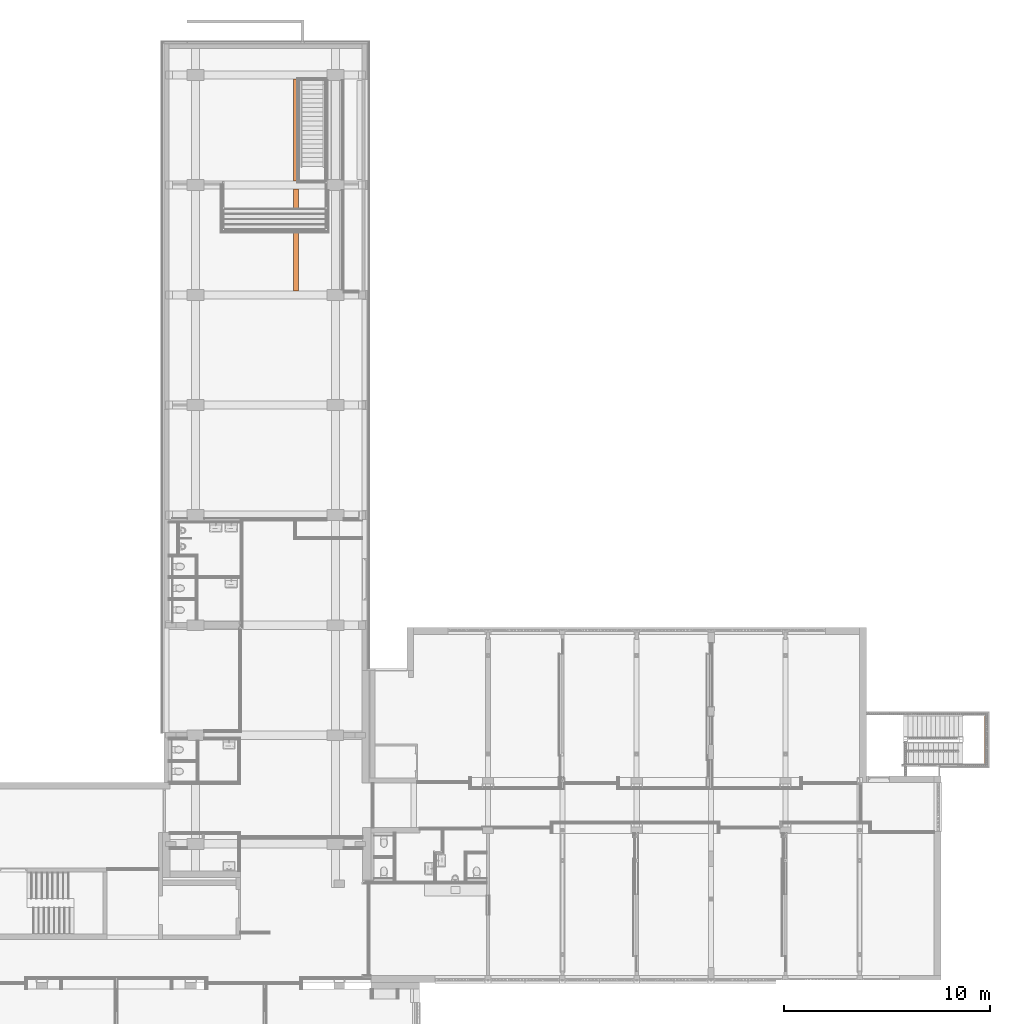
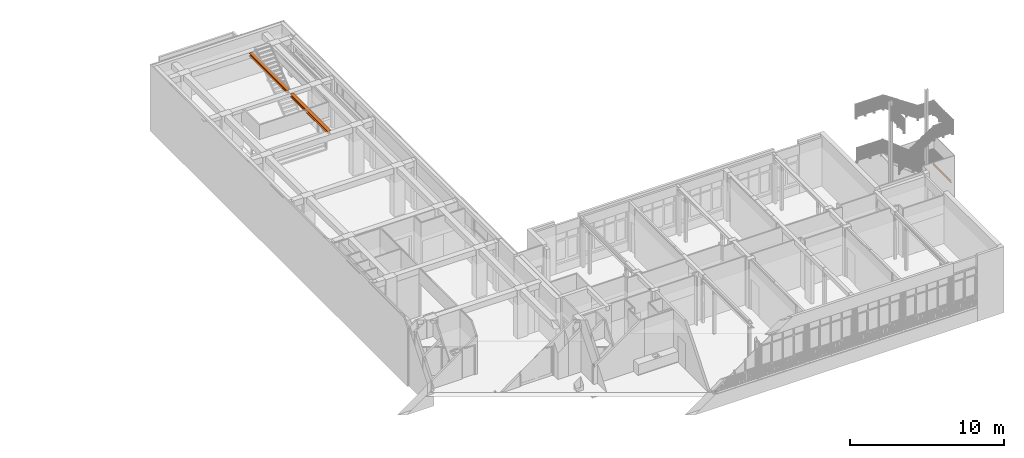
# One storey, part 135 of 135: 3 proxies.
"""IFC2X3 building model written with IfcOpenShell, lengths in millimetres."""

from ifc_helpers import new_model, entity, si_unit, converted_unit, derived_unit, money_unit, direction, frame, origin_with_axes, place, context, subcontext, project, spatial, faceted_brep, material, type_object, element, save


model = new_model("IFC2X3")

# Units and contexts
model_context = context("Model", 3, precision=0.01, world=origin_with_axes(), true_north=direction((0.0, 1.0)))
body_context = subcontext(model_context, "Body", "Model", "MODEL_VIEW")
ifc_project = project(units=[si_unit("LENGTHUNIT", "METRE", prefix="MILLI"), si_unit("AREAUNIT", "SQUARE_METRE"), si_unit("VOLUMEUNIT", "CUBIC_METRE"), converted_unit("PLANEANGLEUNIT", "DEGREE", entity("IfcPlaneAngleMeasure", 0.0174532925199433), si_unit("PLANEANGLEUNIT", "RADIAN"), dimensions=[0, 0, 0, 0, 0, 0, 0]), money_unit("EUR"), converted_unit("TIMEUNIT", "Year", entity("IfcTimeMeasure", 31557600.0), si_unit("TIMEUNIT", "SECOND"), dimensions=[0, 0, 1, 0, 0, 0, 0]), si_unit("MASSUNIT", "GRAM", prefix="KILO"), si_unit("THERMODYNAMICTEMPERATUREUNIT", "DEGREE_CELSIUS"), si_unit("LUMINOUSINTENSITYUNIT", "LUMEN"), si_unit("ENERGYUNIT", "JOULE", prefix="MEGA"), derived_unit("THERMALCONDUCTANCEUNIT", [(si_unit("POWERUNIT", "WATT"), 1), (si_unit("LENGTHUNIT", "METRE"), -1), (si_unit("THERMODYNAMICTEMPERATUREUNIT", "KELVIN"), -1)]), derived_unit("SPECIFICHEATCAPACITYUNIT", [(si_unit("ENERGYUNIT", "JOULE"), 1), (si_unit("MASSUNIT", "GRAM", prefix="KILO"), -1), (si_unit("THERMODYNAMICTEMPERATUREUNIT", "KELVIN"), -1)]), derived_unit("MASSDENSITYUNIT", [(si_unit("MASSUNIT", "GRAM", prefix="KILO"), 1), (si_unit("VOLUMEUNIT", "CUBIC_METRE"), -1)])], contexts=[model_context])

# Site, building, storey
site_placement = place(None, origin_with_axes())
site = spatial("IfcSite", under=ifc_project, at=site_placement, Name="Site", CompositionType="ELEMENT")
building_placement = place(site_placement, origin_with_axes())
building = spatial("IfcBuilding", under=site, at=building_placement, Name="Naam gebouw", CompositionType="ELEMENT")
storey_placement = place(building_placement, origin_with_axes())
storey = spatial("IfcBuildingStorey", under=building, at=storey_placement, Name="Begane grond N", CompositionType="ELEMENT", Elevation=0.0)

# Proxies
ifc_material = material(Name="Metaal - Staal AFW")
building_element_proxy_type_1 = type_object("IfcBuildingElementProxyType", Name="HEA balk 27", PredefinedType="NOTDEFINED")
proxy_1_placement = place(storey_placement, frame((26705.99999999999, 44145.91242510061, 3590.0), z_axis=(0.0, 0.0, 1.0), x_axis=(0.0, -1.0, 0.0)))
element("IfcBuildingElementProxy", 1, at=proxy_1_placement, inside=storey, type_object=building_element_proxy_type_1, material=ifc_material, Name="_Boom-x", context=body_context, shape_type="Brep", body=[
    faceted_brep([(0.0, -120.0, 0.0), (-4929.999999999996, -120.0000000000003, 0.0), (-4929.999999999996, 119.9999999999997, 0.0), (0.0, 120.0, 0.0), (0.0, -120.0, 12.0), (-4929.999999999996, -120.0000000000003, 12.0000000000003), (-4929.999999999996, -24.7500000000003, 12.0000000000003), (-4929.999999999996, -14.2500000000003, 14.81346652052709), (-4929.999999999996, -6.563466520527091, 22.5000000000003), (-4929.999999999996, -3.750000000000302, 33.00000000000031), (-4929.999999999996, -3.750000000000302, 197.0000000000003), (-4929.999999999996, -6.563466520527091, 207.5000000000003), (-4929.999999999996, -14.2500000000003, 215.1865334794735), (-4929.999999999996, -24.7500000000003, 218.0000000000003), (-4929.999999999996, -120.0000000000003, 218.0000000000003), (-4929.999999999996, -120.0000000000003, 230.0000000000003), (-4929.999999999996, 119.9999999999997, 230.0000000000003), (-4929.999999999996, 119.9999999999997, 218.0000000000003), (-4929.999999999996, 24.74999999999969, 218.0000000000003), (-4929.999999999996, 14.2499999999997, 215.1865334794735), (-4929.999999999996, 6.563466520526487, 207.5000000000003), (-4929.999999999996, 3.749999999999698, 197.0000000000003), (-4929.999999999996, 3.749999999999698, 33.00000000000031), (-4929.999999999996, 6.563466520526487, 22.5000000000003), (-4929.999999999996, 14.2499999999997, 14.81346652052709), (-4929.999999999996, 24.7499999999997, 12.0000000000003), (-4929.999999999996, 119.9999999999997, 12.0000000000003), (0.0, 120.0, 12.0), (0.0, 24.75, 12.0), (0.0, 14.25, 14.81346652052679), (0.0, 6.563466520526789, 22.5), (0.0, 3.75, 33.0), (0.0, 3.75, 197.0), (0.0, 6.563466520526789, 207.5), (0.0, 14.25, 215.1865334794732), (0.0, 24.75, 218.0), (0.0, 120.0, 218.0), (0.0, 120.0, 230.0), (0.0, -120.0, 230.0), (0.0, -120.0, 218.0), (0.0, -24.75, 218.0), (0.0, -14.25, 215.1865334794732), (0.0, -6.563466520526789, 207.5), (0.0, -3.75, 197.0), (0.0, -3.75, 33.0), (0.0, -6.563466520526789, 22.5), (0.0, -14.25, 14.81346652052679), (0.0, -24.75, 12.0)], [[[0, 1, 2, 3]], [[4, 5, 1, 0]], [[1, 5, 6, 7, 8, 9, 10, 11, 12, 13, 14, 15, 16, 17, 18, 19, 20, 21, 22, 23, 24, 25, 26, 2]], [[3, 2, 26, 27]], [[0, 3, 27, 28, 29, 30, 31, 32, 33, 34, 35, 36, 37, 38, 39, 40, 41, 42, 43, 44, 45, 46, 47, 4]], [[47, 6, 5, 4]], [[46, 7, 6, 47]], [[45, 8, 7, 46]], [[44, 9, 8, 45]], [[43, 10, 9, 44]], [[42, 11, 10, 43]], [[41, 12, 11, 42]], [[40, 13, 12, 41]], [[39, 14, 13, 40]], [[38, 15, 14, 39]], [[37, 16, 15, 38]], [[36, 17, 16, 37]], [[35, 18, 17, 36]], [[34, 19, 18, 35]], [[33, 20, 19, 34]], [[32, 21, 20, 33]], [[31, 22, 21, 32]], [[30, 23, 22, 31]], [[29, 24, 23, 30]], [[28, 25, 24, 29]], [[27, 26, 25, 28]]]),
])
building_element_proxy_type_2 = type_object("IfcBuildingElementProxyType", Name="UPN balk 27", PredefinedType="NOTDEFINED")
proxy_2_placement = place(storey_placement, frame((60077.49999999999, 23583.4124251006, 1927.745891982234), z_axis=(0.0, 0.0, 1.0), x_axis=(0.0, -1.0, 0.0)))
element("IfcBuildingElementProxy", 2, at=proxy_2_placement, inside=storey, type_object=building_element_proxy_type_2, material=ifc_material, Name="_Boom-x", context=body_context, shape_type="Brep", body=[
    faceted_brep([(2322.500000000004, -32.50000000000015, 160.0000000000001), (2355.000000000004, 0.0, 160.0000000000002), (2387.500000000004, 32.49999999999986, 160.0000000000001), (-32.49999999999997, 32.5, 160.0), (32.49999999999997, -32.5, 160.0), (2355.000000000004, 0.0, 10.50000000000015), (2340.500000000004, -14.50000000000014, 10.50000000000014), (2335.250000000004, -19.75000000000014, 11.90673326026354), (2331.406733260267, -23.59326673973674, 15.75000000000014), (2330.000000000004, -25.00000000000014, 21.00000000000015), (2330.000000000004, -25.00000000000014, 139.0000000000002), (2331.406733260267, -23.59326673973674, 144.2500000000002), (2335.250000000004, -19.75000000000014, 148.0932667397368), (2340.500000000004, -14.50000000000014, 149.5000000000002), (2355.000000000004, 0.0, 149.5000000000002), (2382.000000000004, 26.99999999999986, 149.5000000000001), (2384.750000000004, 29.74999999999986, 150.2368602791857), (2386.763139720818, 31.76313972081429, 152.2500000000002), (2387.500000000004, 32.49999999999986, 155.0000000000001), (2322.500000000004, -32.50000000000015, 0.0), (2355.000000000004, 0.0, 0.0), (2387.500000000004, 32.49999999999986, 0.0), (2387.500000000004, 32.49999999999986, 5.000000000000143), (2386.763139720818, 31.76313972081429, 7.750000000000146), (2384.750000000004, 29.74999999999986, 9.76313972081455), (2382.000000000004, 26.99999999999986, 10.50000000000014), (-32.49999999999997, 32.5, 155.0), (-31.76313972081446, 31.76313972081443, 152.25), (-29.74999999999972, 29.75000000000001, 150.2368602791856), (-26.99999999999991, 27.00000000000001, 149.5), (14.50000000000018, -14.5, 149.5), (19.75000000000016, -19.75, 148.0932667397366), (23.59326673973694, -23.59326673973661, 144.2500000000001), (25.00000000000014, -25.0, 139.0), (25.00000000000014, -25.0, 21.0), (23.59326673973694, -23.59326673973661, 15.75), (19.75000000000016, -19.75, 11.9067332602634), (14.50000000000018, -14.5, 10.49999999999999), (-26.99999999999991, 27.00000000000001, 10.49999999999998), (-29.74999999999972, 29.75000000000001, 9.763139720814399), (-31.76313972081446, 31.76313972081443, 7.749999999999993), (-32.49999999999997, 32.5, 4.999999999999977), (-32.49999999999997, 32.5, 0.0), (32.49999999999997, -32.5, 0.0)], [[[0, 1, 2, 3, 4]], [[5, 6, 7, 8, 9, 10, 11, 12, 13, 14, 15, 16, 17, 18, 2, 1, 0, 19, 20, 21, 22, 23, 24, 25]], [[18, 26, 3, 2]], [[4, 3, 26, 27, 28, 29, 30, 31, 32, 33, 34, 35, 36, 37, 38, 39, 40, 41, 42, 43]], [[19, 0, 4, 43]], [[6, 5, 25, 38, 37]], [[7, 6, 37, 36]], [[8, 7, 36, 35]], [[9, 8, 35, 34]], [[10, 9, 34, 33]], [[11, 10, 33, 32]], [[12, 11, 32, 31]], [[13, 12, 31, 30]], [[14, 13, 30, 29, 15]], [[15, 29, 28, 16]], [[16, 28, 27, 17]], [[17, 27, 26, 18]], [[20, 19, 43, 42, 21]], [[21, 42, 41, 22]], [[22, 41, 40, 23]], [[23, 40, 39, 24]], [[24, 39, 38, 25]]]),
])
building_element_proxy_type_3 = type_object("IfcBuildingElementProxyType", Name="HEB balk 27", PredefinedType="NOTDEFINED")
proxy_3_placement = place(storey_placement, frame((26705.99999999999, 49475.9124251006, 3590.0), z_axis=(0.0, 0.0, 1.0), x_axis=(0.0, -1.0, 0.0)))
element("IfcBuildingElementProxy", 3, at=proxy_3_placement, inside=storey, type_object=building_element_proxy_type_3, material=ifc_material, Name="_Boom-x", context=body_context, shape_type="Brep", body=[
    faceted_brep([(0.0, -120.0, 0.0), (-4929.999999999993, -120.0000000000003, 0.0), (-4929.999999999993, 119.9999999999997, 0.0), (0.0, 120.0, 0.0), (0.0, -120.0, 17.0), (-4929.999999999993, -120.0000000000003, 17.0000000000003), (-4929.999999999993, -26.00000000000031, 17.00000000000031), (-4929.999999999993, -15.50000000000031, 19.8134665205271), (-4929.999999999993, -7.813466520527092, 27.50000000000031), (-4929.999999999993, -5.000000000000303, 38.00000000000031), (-4929.999999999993, -5.000000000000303, 202.0000000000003), (-4929.999999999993, -7.813466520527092, 212.5000000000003), (-4929.999999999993, -15.50000000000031, 220.1865334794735), (-4929.999999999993, -26.0000000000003, 223.0000000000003), (-4929.999999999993, -120.0000000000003, 223.0000000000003), (-4929.999999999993, -120.0000000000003, 240.0000000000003), (-4929.999999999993, 119.9999999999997, 240.0000000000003), (-4929.999999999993, 119.9999999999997, 223.0000000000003), (-4929.999999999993, 25.9999999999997, 223.0000000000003), (-4929.999999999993, 15.4999999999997, 220.1865334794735), (-4929.999999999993, 7.813466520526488, 212.5000000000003), (-4929.999999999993, 4.999999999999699, 202.0000000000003), (-4929.999999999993, 4.999999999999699, 38.00000000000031), (-4929.999999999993, 7.813466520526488, 27.50000000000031), (-4929.999999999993, 15.4999999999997, 19.8134665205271), (-4929.999999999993, 25.9999999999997, 17.00000000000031), (-4929.999999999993, 119.9999999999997, 17.0000000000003), (0.0, 120.0, 17.0), (0.0, 26.0, 17.0), (0.0, 15.5, 19.8134665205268), (0.0, 7.81346652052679, 27.5), (0.0, 5.000000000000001, 38.00000000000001), (0.0, 5.000000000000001, 202.0), (0.0, 7.81346652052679, 212.5), (0.0, 15.5, 220.1865334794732), (0.0, 26.0, 223.0), (0.0, 120.0, 223.0), (0.0, 120.0, 240.0), (0.0, -120.0, 240.0), (0.0, -120.0, 223.0), (0.0, -26.0, 223.0), (0.0, -15.5, 220.1865334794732), (0.0, -7.81346652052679, 212.5), (0.0, -5.000000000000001, 202.0), (0.0, -5.000000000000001, 38.00000000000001), (0.0, -7.81346652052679, 27.5), (0.0, -15.5, 19.8134665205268), (0.0, -26.0, 17.0)], [[[0, 1, 2, 3]], [[4, 5, 1, 0]], [[1, 5, 6, 7, 8, 9, 10, 11, 12, 13, 14, 15, 16, 17, 18, 19, 20, 21, 22, 23, 24, 25, 26, 2]], [[3, 2, 26, 27]], [[0, 3, 27, 28, 29, 30, 31, 32, 33, 34, 35, 36, 37, 38, 39, 40, 41, 42, 43, 44, 45, 46, 47, 4]], [[47, 6, 5, 4]], [[46, 7, 6, 47]], [[45, 8, 7, 46]], [[44, 9, 8, 45]], [[43, 10, 9, 44]], [[42, 11, 10, 43]], [[41, 12, 11, 42]], [[40, 13, 12, 41]], [[39, 14, 13, 40]], [[38, 15, 14, 39]], [[37, 16, 15, 38]], [[36, 17, 16, 37]], [[35, 18, 17, 36]], [[34, 19, 18, 35]], [[33, 20, 19, 34]], [[32, 21, 20, 33]], [[31, 22, 21, 32]], [[30, 23, 22, 31]], [[29, 24, 23, 30]], [[28, 25, 24, 29]], [[27, 26, 25, 28]]]),
])

save(model, "model.ifc")
